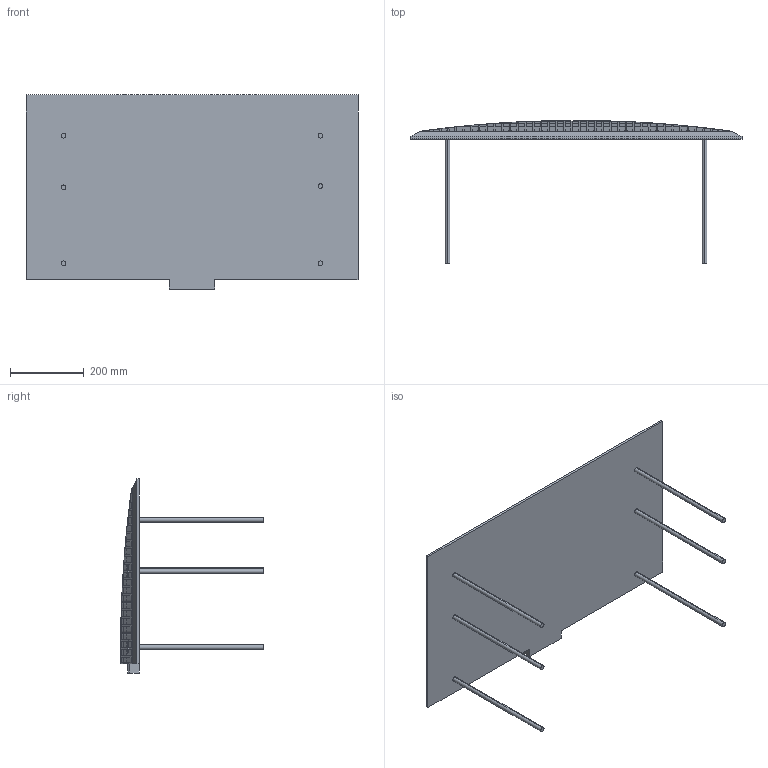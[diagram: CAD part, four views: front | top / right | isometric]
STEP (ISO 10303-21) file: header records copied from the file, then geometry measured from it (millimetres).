
FILE_DESCRIPTION (( 'STEP AP214' ), '1' );
FILE_NAME ('male end boot.STEP', '2024-06-10T21:24:24', ( '' ), ( '' ), 'SwSTEP 2.0', 'SolidWorks 2013', '' );
FILE_SCHEMA (( 'AUTOMOTIVE_DESIGN' ));
Length unit declared in the file: inch
Products named in the file (1): male end boot
Bounding box: 899.16 x 387.29 x 525.78 mm (x, y, z)
Volume: 15228579.8 mm3; surface area: 1505303.3 mm2
Topology: 161 solids, 161 shells, 1290 faces, 2736 edges, 1823 vertices
Faces by surface type: plane 455, bspline 418, cylinder 417
Entity records: 78897 total; most frequent: CARTESIAN_POINT 51350, ORIENTED_EDGE 5472, DIRECTION 4385, EDGE_CURVE 2736, VERTEX_POINT 1823, AXIS2_PLACEMENT_3D 1728, EDGE_LOOP 1357, ADVANCED_FACE 1290
